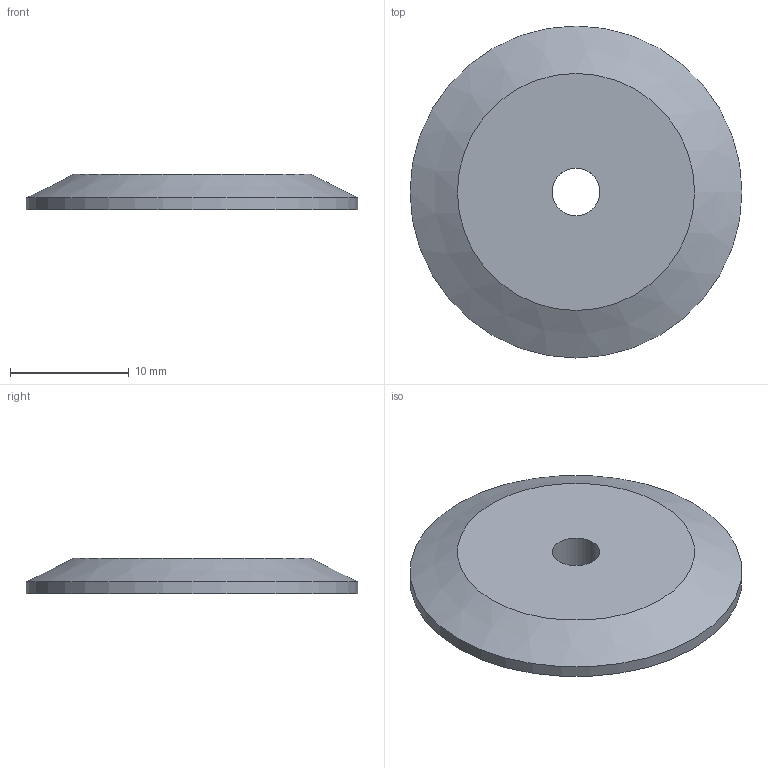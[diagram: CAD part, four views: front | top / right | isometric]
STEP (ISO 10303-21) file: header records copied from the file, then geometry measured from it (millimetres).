
FILE_DESCRIPTION(/* description */ ('CAx-IF Rec.Pracs.---Representation and Presentation of Product Manufacturing Information (PMI)---4.0---2014-10-13','CAx-IF Rec.Pracs.---3D Tessellated Geometry---0.4---2014-09-14','2;1'),/* implementation_level */ '2;1');
FILE_NAME(/* name */ 'qc1_p66',/* time_stamp */ '2026-07-26T03:30:01+03:00',/* author */ (''),/* organization */ (''),/* preprocessor_version */ 'ST-DEVELOPER v19.4',/* originating_system */ 'SIEMENS PLM Software NX2306.1700',/* authorisation */ $);
FILE_SCHEMA (('AP242_MANAGED_MODEL_BASED_3D_ENGINEERING_MIM_LF { 1 0 10303 442 3 1 4 }'));
Length unit declared in the file: millimetre
Products named in the file (1): qc1_p66
Bounding box: 28 x 28 x 3 mm (x, y, z)
Volume: 1491 mm3; surface area: 1367.6 mm2
Topology: 1 solids, 1 shells, 5 faces, 8 edges, 5 vertices
Faces by surface type: cylinder 2, plane 2, cone 1
Full cylindrical faces by diameter (mm): 4.01 x1, 28 x1
Entity records: 130 total; most frequent: DIRECTION 22, CARTESIAN_POINT 16, AXIS2_PLACEMENT_3D 11, ORIENTED_EDGE 10, EDGE_LOOP 10, FACE_BOUND 10, EDGE_CURVE 5, VERTEX_POINT 5
